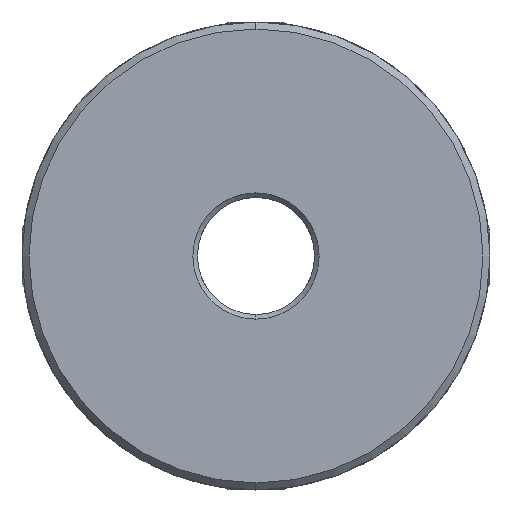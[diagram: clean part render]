
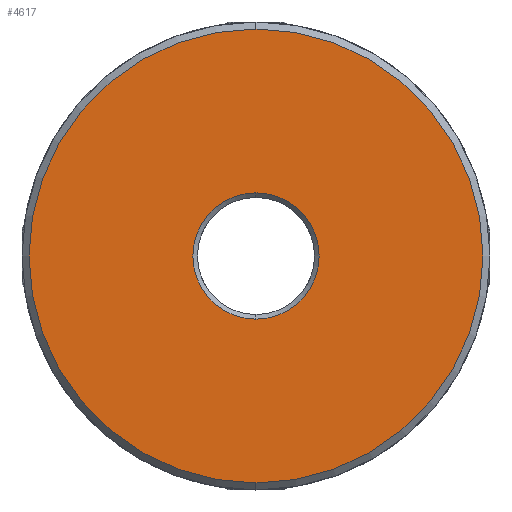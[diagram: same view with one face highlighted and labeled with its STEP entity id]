
A CAD part, front view. The second image highlights one B-rep face of the part: STEP entity #4617.
In plain terms, the highlighted planar face has unit normal (0, -1, 0).
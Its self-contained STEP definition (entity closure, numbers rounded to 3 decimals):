
#274 = AXIS2_PLACEMENT_3D ( 'NONE', #1361, #5877, #561 ) ;
#561 = DIRECTION ( 'NONE',  ( 0., 0., 1. ) ) ;
#587 = VERTEX_POINT ( 'NONE', #7106 ) ;
#730 = VERTEX_POINT ( 'NONE', #5593 ) ;
#922 = DIRECTION ( 'NONE',  ( 0., -1., 0. ) ) ;
#948 = CARTESIAN_POINT ( 'NONE',  ( 0., 0., 0. ) ) ;
#1361 = CARTESIAN_POINT ( 'NONE',  ( 0., 0., 0. ) ) ;
#1616 = CIRCLE ( 'NONE', #7455, 5.4 ) ;
#1772 = EDGE_LOOP ( 'NONE', ( #4680, #2393 ) ) ;
#1786 = VERTEX_POINT ( 'NONE', #4932 ) ;
#1874 = EDGE_CURVE ( 'NONE', #587, #730, #1616, .T. ) ;
#2019 = EDGE_CURVE ( 'NONE', #1786, #5286, #5411, .T. ) ;
#2190 = CARTESIAN_POINT ( 'NONE',  ( 24.74, 0., -50. ) ) ;
#2393 = ORIENTED_EDGE ( 'NONE', *, *, #1874, .T. ) ;
#2422 = ORIENTED_EDGE ( 'NONE', *, *, #2019, .T. ) ;
#2520 = DIRECTION ( 'NONE',  ( 0., 0., 1. ) ) ;
#3359 = EDGE_LOOP ( 'NONE', ( #2422, #4611 ) ) ;
#3371 = EDGE_CURVE ( 'NONE', #5286, #1786, #6963, .T. ) ;
#3495 = DIRECTION ( 'NONE',  ( 0., 1., 0. ) ) ;
#3601 = DIRECTION ( 'NONE',  ( 0., 0., 1. ) ) ;
#3638 = FACE_OUTER_BOUND ( 'NONE', #3359, .T. ) ;
#3888 = DIRECTION ( 'NONE',  ( 0., 0., 1. ) ) ;
#4326 = CARTESIAN_POINT ( 'NONE',  ( 0., 0., 0. ) ) ;
#4611 = ORIENTED_EDGE ( 'NONE', *, *, #3371, .T. ) ;
#4617 = ADVANCED_FACE ( 'NONE', ( #7038, #3638 ), #4737, .F. ) ;
#4680 = ORIENTED_EDGE ( 'NONE', *, *, #6725, .T. ) ;
#4687 = AXIS2_PLACEMENT_3D ( 'NONE', #948, #922, #3888 ) ;
#4737 = PLANE ( 'NONE',  #5187 ) ;
#4849 = CIRCLE ( 'NONE', #6910, 5.4 ) ;
#4932 = CARTESIAN_POINT ( 'NONE',  ( 0., 0., 19.4 ) ) ;
#5187 = AXIS2_PLACEMENT_3D ( 'NONE', #2190, #3495, #5288 ) ;
#5286 = VERTEX_POINT ( 'NONE', #6032 ) ;
#5288 = DIRECTION ( 'NONE',  ( 0., 0., 1. ) ) ;
#5411 = CIRCLE ( 'NONE', #274, 19.4 ) ;
#5593 = CARTESIAN_POINT ( 'NONE',  ( 0., 0., -5.4 ) ) ;
#5877 = DIRECTION ( 'NONE',  ( 0., -1., 0. ) ) ;
#6032 = CARTESIAN_POINT ( 'NONE',  ( 0., 0., -19.4 ) ) ;
#6151 = DIRECTION ( 'NONE',  ( 0., 1., 0. ) ) ;
#6725 = EDGE_CURVE ( 'NONE', #730, #587, #4849, .T. ) ;
#6910 = AXIS2_PLACEMENT_3D ( 'NONE', #7772, #7796, #3601 ) ;
#6963 = CIRCLE ( 'NONE', #4687, 19.4 ) ;
#7038 = FACE_BOUND ( 'NONE', #1772, .T. ) ;
#7106 = CARTESIAN_POINT ( 'NONE',  ( 0., 0., 5.4 ) ) ;
#7455 = AXIS2_PLACEMENT_3D ( 'NONE', #4326, #6151, #2520 ) ;
#7772 = CARTESIAN_POINT ( 'NONE',  ( 0., 0., 0. ) ) ;
#7796 = DIRECTION ( 'NONE',  ( 0., 1., 0. ) ) ;
